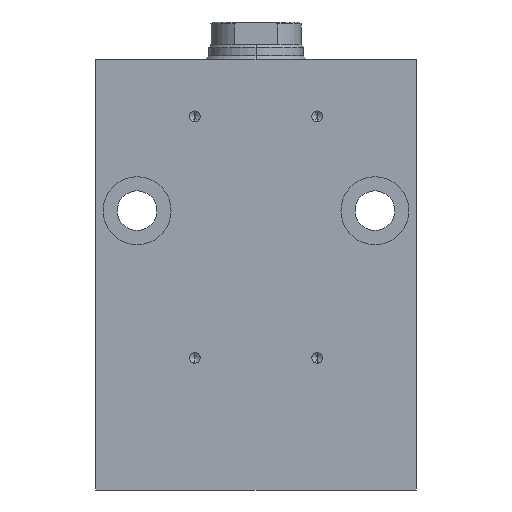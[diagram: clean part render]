
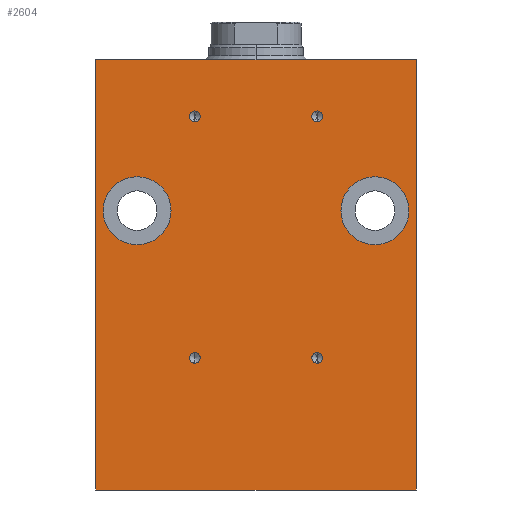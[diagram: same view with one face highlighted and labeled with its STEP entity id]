
A CAD part, left-side view. The second image highlights one B-rep face of the part: STEP entity #2604.
In plain terms, the highlighted planar face has unit normal (-1, 0, 0).
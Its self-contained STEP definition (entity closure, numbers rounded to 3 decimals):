
#9 = AXIS2_PLACEMENT_3D ( 'NONE', #3012, #98, #3753 ) ;
#11 = CARTESIAN_POINT ( 'NONE',  ( -31.5, 42.5, -124. ) ) ;
#55 = DIRECTION ( 'NONE',  ( -1., 0., 0. ) ) ;
#95 = CARTESIAN_POINT ( 'NONE',  ( -31.5, 42.5, -10. ) ) ;
#98 = DIRECTION ( 'NONE',  ( -1., 0., 0. ) ) ;
#102 = DIRECTION ( 'NONE',  ( -1., 0., 0. ) ) ;
#118 = EDGE_CURVE ( 'NONE', #2836, #1921, #837, .T. ) ;
#151 = CARTESIAN_POINT ( 'NONE',  ( -31.5, 16.2, -25. ) ) ;
#157 = CARTESIAN_POINT ( 'NONE',  ( -31.5, 42.5, -10. ) ) ;
#176 = DIRECTION ( 'NONE',  ( -1., 0., 0. ) ) ;
#264 = CARTESIAN_POINT ( 'NONE',  ( -31.5, 16.2, -26.425 ) ) ;
#291 = DIRECTION ( 'NONE',  ( -1., 0., 0. ) ) ;
#309 = VECTOR ( 'NONE', #3922, 1000. ) ;
#352 = CIRCLE ( 'NONE', #966, 1.425 ) ;
#438 = CARTESIAN_POINT ( 'NONE',  ( -31.5, 31.5, -50. ) ) ;
#459 = CARTESIAN_POINT ( 'NONE',  ( -31.5, -16.2, -89. ) ) ;
#491 = DIRECTION ( 'NONE',  ( 0., 0., -1. ) ) ;
#648 = ORIENTED_EDGE ( 'NONE', *, *, #2013, .T. ) ;
#669 = DIRECTION ( 'NONE',  ( -1., 0., 0. ) ) ;
#696 = CIRCLE ( 'NONE', #2644, 9. ) ;
#732 = DIRECTION ( 'NONE',  ( 0., 0., -1. ) ) ;
#776 = AXIS2_PLACEMENT_3D ( 'NONE', #2703, #176, #491 ) ;
#815 = EDGE_CURVE ( 'NONE', #3269, #2614, #2124, .T. ) ;
#832 = ORIENTED_EDGE ( 'NONE', *, *, #1985, .F. ) ;
#837 = CIRCLE ( 'NONE', #1477, 1.425 ) ;
#911 = ORIENTED_EDGE ( 'NONE', *, *, #118, .F. ) ;
#950 = DIRECTION ( 'NONE',  ( -1., 0., 0. ) ) ;
#954 = DIRECTION ( 'NONE',  ( 0., 0., 1. ) ) ;
#956 = VERTEX_POINT ( 'NONE', #1156 ) ;
#966 = AXIS2_PLACEMENT_3D ( 'NONE', #2608, #55, #3641 ) ;
#987 = CARTESIAN_POINT ( 'NONE',  ( -31.5, 31.5, -59. ) ) ;
#998 = AXIS2_PLACEMENT_3D ( 'NONE', #1497, #1466, #2955 ) ;
#1013 = DIRECTION ( 'NONE',  ( -1., 0., 0. ) ) ;
#1105 = EDGE_LOOP ( 'NONE', ( #3890, #3365, #4042, #648 ) ) ;
#1125 = VERTEX_POINT ( 'NONE', #987 ) ;
#1156 = CARTESIAN_POINT ( 'NONE',  ( -31.5, -31.5, -59. ) ) ;
#1161 = CIRCLE ( 'NONE', #2403, 1.425 ) ;
#1189 = DIRECTION ( 'NONE',  ( 0., 0., 1. ) ) ;
#1209 = ORIENTED_EDGE ( 'NONE', *, *, #2782, .F. ) ;
#1258 = LINE ( 'NONE', #157, #4306 ) ;
#1277 = DIRECTION ( 'NONE',  ( -1., 0., 0. ) ) ;
#1466 = DIRECTION ( 'NONE',  ( -1., 0., 0. ) ) ;
#1477 = AXIS2_PLACEMENT_3D ( 'NONE', #151, #1277, #2749 ) ;
#1480 = FACE_BOUND ( 'NONE', #4576, .T. ) ;
#1497 = CARTESIAN_POINT ( 'NONE',  ( -31.5, 16.2, -89. ) ) ;
#1501 = ORIENTED_EDGE ( 'NONE', *, *, #2617, .F. ) ;
#1538 = EDGE_CURVE ( 'NONE', #3516, #1998, #4859, .T. ) ;
#1586 = CARTESIAN_POINT ( 'NONE',  ( -31.5, -16.2, -23.575 ) ) ;
#1654 = ORIENTED_EDGE ( 'NONE', *, *, #3743, .F. ) ;
#1720 = DIRECTION ( 'NONE',  ( 0., -1., 0. ) ) ;
#1779 = CARTESIAN_POINT ( 'NONE',  ( -31.5, 42.5, -124. ) ) ;
#1803 = VECTOR ( 'NONE', #954, 1000. ) ;
#1842 = FACE_BOUND ( 'NONE', #2677, .T. ) ;
#1921 = VERTEX_POINT ( 'NONE', #264 ) ;
#1931 = VERTEX_POINT ( 'NONE', #4328 ) ;
#1985 = EDGE_CURVE ( 'NONE', #1998, #3516, #1161, .T. ) ;
#1998 = VERTEX_POINT ( 'NONE', #2770 ) ;
#2013 = EDGE_CURVE ( 'NONE', #1931, #2308, #2086, .T. ) ;
#2066 = CARTESIAN_POINT ( 'NONE',  ( -31.5, 16.2, -89. ) ) ;
#2086 = LINE ( 'NONE', #3898, #309 ) ;
#2124 = CIRCLE ( 'NONE', #3385, 1.425 ) ;
#2160 = CARTESIAN_POINT ( 'NONE',  ( -31.5, -16.2, -89. ) ) ;
#2284 = CIRCLE ( 'NONE', #4661, 1.425 ) ;
#2308 = VERTEX_POINT ( 'NONE', #3469 ) ;
#2331 = AXIS2_PLACEMENT_3D ( 'NONE', #4829, #669, #732 ) ;
#2403 = AXIS2_PLACEMENT_3D ( 'NONE', #2066, #1013, #3200 ) ;
#2559 = DIRECTION ( 'NONE',  ( 0., 0., 1. ) ) ;
#2604 = ADVANCED_FACE ( 'NONE', ( #1842, #1480, #4399, #4093, #4418, #3295, #3268 ), #3637, .T. ) ;
#2608 = CARTESIAN_POINT ( 'NONE',  ( -31.5, 16.2, -25. ) ) ;
#2614 = VERTEX_POINT ( 'NONE', #2865 ) ;
#2617 = EDGE_CURVE ( 'NONE', #3755, #956, #4459, .T. ) ;
#2644 = AXIS2_PLACEMENT_3D ( 'NONE', #4150, #102, #3860 ) ;
#2677 = EDGE_LOOP ( 'NONE', ( #911, #4219 ) ) ;
#2703 = CARTESIAN_POINT ( 'NONE',  ( -31.5, 31.5, -50. ) ) ;
#2749 = DIRECTION ( 'NONE',  ( 0., 0., 1. ) ) ;
#2770 = CARTESIAN_POINT ( 'NONE',  ( -31.5, 16.2, -90.425 ) ) ;
#2782 = EDGE_CURVE ( 'NONE', #956, #3755, #696, .T. ) ;
#2786 = VERTEX_POINT ( 'NONE', #11 ) ;
#2788 = VERTEX_POINT ( 'NONE', #4199 ) ;
#2834 = AXIS2_PLACEMENT_3D ( 'NONE', #459, #4129, #1189 ) ;
#2836 = VERTEX_POINT ( 'NONE', #3167 ) ;
#2865 = CARTESIAN_POINT ( 'NONE',  ( -31.5, -16.2, -26.425 ) ) ;
#2892 = CIRCLE ( 'NONE', #776, 9. ) ;
#2896 = EDGE_CURVE ( 'NONE', #2786, #3836, #4248, .T. ) ;
#2902 = EDGE_CURVE ( 'NONE', #3836, #2308, #1258, .T. ) ;
#2914 = LINE ( 'NONE', #4071, #3364 ) ;
#2920 = CIRCLE ( 'NONE', #2834, 1.425 ) ;
#2949 = CARTESIAN_POINT ( 'NONE',  ( -31.5, 31.5, -41. ) ) ;
#2955 = DIRECTION ( 'NONE',  ( 0., 0., 1. ) ) ;
#3012 = CARTESIAN_POINT ( 'NONE',  ( -31.5, -16.2, -25. ) ) ;
#3097 = EDGE_CURVE ( 'NONE', #2786, #1931, #2914, .T. ) ;
#3153 = ORIENTED_EDGE ( 'NONE', *, *, #3278, .F. ) ;
#3167 = CARTESIAN_POINT ( 'NONE',  ( -31.5, 16.2, -23.575 ) ) ;
#3170 = ORIENTED_EDGE ( 'NONE', *, *, #3386, .F. ) ;
#3191 = CIRCLE ( 'NONE', #4128, 9. ) ;
#3200 = DIRECTION ( 'NONE',  ( 0., 0., 1. ) ) ;
#3262 = DIRECTION ( 'NONE',  ( 0., -1., 0. ) ) ;
#3268 = FACE_OUTER_BOUND ( 'NONE', #1105, .T. ) ;
#3269 = VERTEX_POINT ( 'NONE', #1586 ) ;
#3278 = EDGE_CURVE ( 'NONE', #2614, #3269, #4631, .T. ) ;
#3295 = FACE_BOUND ( 'NONE', #4554, .T. ) ;
#3329 = DIRECTION ( 'NONE',  ( -1., 0., 0. ) ) ;
#3364 = VECTOR ( 'NONE', #3262, 1000. ) ;
#3365 = ORIENTED_EDGE ( 'NONE', *, *, #2896, .F. ) ;
#3377 = CARTESIAN_POINT ( 'NONE',  ( -31.5, -31.5, -41. ) ) ;
#3379 = ORIENTED_EDGE ( 'NONE', *, *, #1538, .F. ) ;
#3385 = AXIS2_PLACEMENT_3D ( 'NONE', #4694, #950, #3485 ) ;
#3386 = EDGE_CURVE ( 'NONE', #4098, #1125, #2892, .T. ) ;
#3443 = EDGE_LOOP ( 'NONE', ( #3684, #3795 ) ) ;
#3469 = CARTESIAN_POINT ( 'NONE',  ( -31.5, -42.5, -10. ) ) ;
#3485 = DIRECTION ( 'NONE',  ( 0., 0., 1. ) ) ;
#3516 = VERTEX_POINT ( 'NONE', #3600 ) ;
#3600 = CARTESIAN_POINT ( 'NONE',  ( -31.5, 16.2, -87.575 ) ) ;
#3637 = PLANE ( 'NONE',  #3835 ) ;
#3641 = DIRECTION ( 'NONE',  ( 0., 0., 1. ) ) ;
#3684 = ORIENTED_EDGE ( 'NONE', *, *, #4111, .F. ) ;
#3722 = DIRECTION ( 'NONE',  ( 0., 0., -1. ) ) ;
#3743 = EDGE_CURVE ( 'NONE', #1125, #4098, #3191, .T. ) ;
#3747 = EDGE_LOOP ( 'NONE', ( #1501, #1209 ) ) ;
#3753 = DIRECTION ( 'NONE',  ( 0., 0., 1. ) ) ;
#3755 = VERTEX_POINT ( 'NONE', #3377 ) ;
#3795 = ORIENTED_EDGE ( 'NONE', *, *, #4255, .F. ) ;
#3835 = AXIS2_PLACEMENT_3D ( 'NONE', #1779, #4470, #2559 ) ;
#3836 = VERTEX_POINT ( 'NONE', #95 ) ;
#3860 = DIRECTION ( 'NONE',  ( 0., 0., -1. ) ) ;
#3890 = ORIENTED_EDGE ( 'NONE', *, *, #2902, .F. ) ;
#3898 = CARTESIAN_POINT ( 'NONE',  ( -31.5, -42.5, -124. ) ) ;
#3922 = DIRECTION ( 'NONE',  ( 0., 0., 1. ) ) ;
#3952 = CARTESIAN_POINT ( 'NONE',  ( -31.5, 42.5, -124. ) ) ;
#4016 = DIRECTION ( 'NONE',  ( 0., 0., 1. ) ) ;
#4035 = ORIENTED_EDGE ( 'NONE', *, *, #815, .F. ) ;
#4042 = ORIENTED_EDGE ( 'NONE', *, *, #3097, .T. ) ;
#4071 = CARTESIAN_POINT ( 'NONE',  ( -31.5, 42.5, -124. ) ) ;
#4093 = FACE_BOUND ( 'NONE', #4809, .T. ) ;
#4098 = VERTEX_POINT ( 'NONE', #2949 ) ;
#4111 = EDGE_CURVE ( 'NONE', #4329, #2788, #2284, .T. ) ;
#4128 = AXIS2_PLACEMENT_3D ( 'NONE', #438, #3329, #3722 ) ;
#4129 = DIRECTION ( 'NONE',  ( -1., 0., 0. ) ) ;
#4150 = CARTESIAN_POINT ( 'NONE',  ( -31.5, -31.5, -50. ) ) ;
#4199 = CARTESIAN_POINT ( 'NONE',  ( -31.5, -16.2, -90.425 ) ) ;
#4219 = ORIENTED_EDGE ( 'NONE', *, *, #4526, .F. ) ;
#4248 = LINE ( 'NONE', #3952, #1803 ) ;
#4255 = EDGE_CURVE ( 'NONE', #2788, #4329, #2920, .T. ) ;
#4306 = VECTOR ( 'NONE', #1720, 1000. ) ;
#4328 = CARTESIAN_POINT ( 'NONE',  ( -31.5, -42.5, -124. ) ) ;
#4329 = VERTEX_POINT ( 'NONE', #4654 ) ;
#4399 = FACE_BOUND ( 'NONE', #3443, .T. ) ;
#4418 = FACE_BOUND ( 'NONE', #3747, .T. ) ;
#4459 = CIRCLE ( 'NONE', #2331, 9. ) ;
#4470 = DIRECTION ( 'NONE',  ( -1., 0., 0. ) ) ;
#4526 = EDGE_CURVE ( 'NONE', #1921, #2836, #352, .T. ) ;
#4554 = EDGE_LOOP ( 'NONE', ( #3170, #1654 ) ) ;
#4576 = EDGE_LOOP ( 'NONE', ( #4035, #3153 ) ) ;
#4631 = CIRCLE ( 'NONE', #9, 1.425 ) ;
#4654 = CARTESIAN_POINT ( 'NONE',  ( -31.5, -16.2, -87.575 ) ) ;
#4661 = AXIS2_PLACEMENT_3D ( 'NONE', #2160, #291, #4016 ) ;
#4694 = CARTESIAN_POINT ( 'NONE',  ( -31.5, -16.2, -25. ) ) ;
#4809 = EDGE_LOOP ( 'NONE', ( #3379, #832 ) ) ;
#4829 = CARTESIAN_POINT ( 'NONE',  ( -31.5, -31.5, -50. ) ) ;
#4859 = CIRCLE ( 'NONE', #998, 1.425 ) ;
